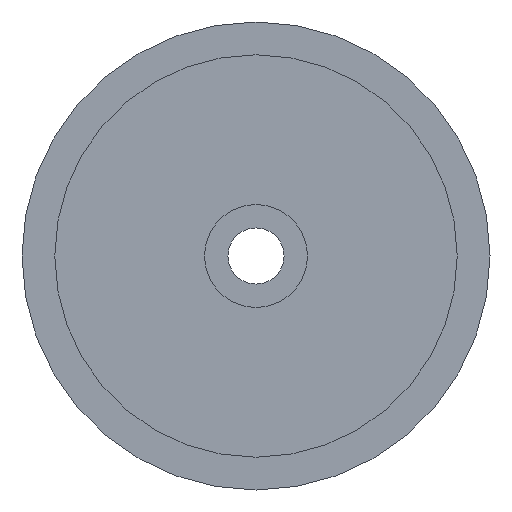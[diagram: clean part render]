
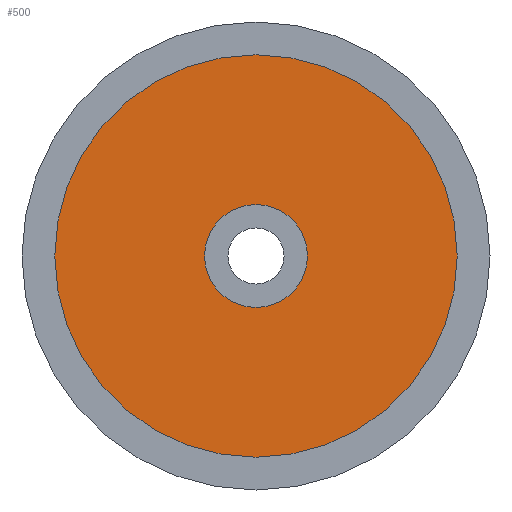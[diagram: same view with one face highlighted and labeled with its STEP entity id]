
A CAD part, front view. The second image highlights one B-rep face of the part: STEP entity #500.
In plain terms, the highlighted planar face has unit normal (0, -1, 0).
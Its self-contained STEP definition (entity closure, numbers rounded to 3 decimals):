
#341 = CYLINDRICAL_SURFACE('',#342,110.);
#342 = AXIS2_PLACEMENT_3D('',#343,#344,#345);
#343 = CARTESIAN_POINT('',(-600.,-577.2,500.));
#344 = DIRECTION('',(0.,1.,0.));
#345 = DIRECTION('',(0.,-0.,1.));
#414 = EDGE_CURVE('',#415,#415,#417,.T.);
#415 = VERTEX_POINT('',#416);
#416 = CARTESIAN_POINT('',(-600.,-519.7,610.));
#417 = SURFACE_CURVE('',#418,(#423,#430),.PCURVE_S1.);
#418 = CIRCLE('',#419,110.);
#419 = AXIS2_PLACEMENT_3D('',#420,#421,#422);
#420 = CARTESIAN_POINT('',(-600.,-519.7,500.));
#421 = DIRECTION('',(0.,1.,0.));
#422 = DIRECTION('',(0.,-0.,1.));
#423 = PCURVE('',#341,#424);
#424 = DEFINITIONAL_REPRESENTATION('',(#425),#429);
#425 = LINE('',#426,#427);
#426 = CARTESIAN_POINT('',(0.,57.5));
#427 = VECTOR('',#428,1.);
#428 = DIRECTION('',(1.,0.));
#429 = ( GEOMETRIC_REPRESENTATION_CONTEXT(2) 
PARAMETRIC_REPRESENTATION_CONTEXT() REPRESENTATION_CONTEXT('2D SPACE',''
  ) );
#430 = PCURVE('',#431,#436);
#431 = PLANE('',#432);
#432 = AXIS2_PLACEMENT_3D('',#433,#434,#435);
#433 = CARTESIAN_POINT('',(-600.,-519.7,500.));
#434 = DIRECTION('',(0.,1.,0.));
#435 = DIRECTION('',(0.,-0.,1.));
#436 = DEFINITIONAL_REPRESENTATION('',(#437),#441);
#437 = CIRCLE('',#438,110.);
#438 = AXIS2_PLACEMENT_2D('',#439,#440);
#439 = CARTESIAN_POINT('',(0.,0.));
#440 = DIRECTION('',(1.,0.));
#441 = ( GEOMETRIC_REPRESENTATION_CONTEXT(2) 
PARAMETRIC_REPRESENTATION_CONTEXT() REPRESENTATION_CONTEXT('2D SPACE',''
  ) );
#489 = CYLINDRICAL_SURFACE('',#490,430.);
#490 = AXIS2_PLACEMENT_3D('',#491,#492,#493);
#491 = CARTESIAN_POINT('',(-600.,-558.2,500.));
#492 = DIRECTION('',(0.,1.,0.));
#493 = DIRECTION('',(0.,-0.,1.));
#500 = ADVANCED_FACE('',(#501,#527),#431,.F.);
#501 = FACE_BOUND('',#502,.F.);
#502 = EDGE_LOOP('',(#503));
#503 = ORIENTED_EDGE('',*,*,#504,.T.);
#504 = EDGE_CURVE('',#505,#505,#507,.T.);
#505 = VERTEX_POINT('',#506);
#506 = CARTESIAN_POINT('',(-600.,-519.7,930.));
#507 = SURFACE_CURVE('',#508,(#513,#520),.PCURVE_S1.);
#508 = CIRCLE('',#509,430.);
#509 = AXIS2_PLACEMENT_3D('',#510,#511,#512);
#510 = CARTESIAN_POINT('',(-600.,-519.7,500.));
#511 = DIRECTION('',(0.,1.,0.));
#512 = DIRECTION('',(0.,-0.,1.));
#513 = PCURVE('',#431,#514);
#514 = DEFINITIONAL_REPRESENTATION('',(#515),#519);
#515 = CIRCLE('',#516,430.);
#516 = AXIS2_PLACEMENT_2D('',#517,#518);
#517 = CARTESIAN_POINT('',(0.,0.));
#518 = DIRECTION('',(1.,0.));
#519 = ( GEOMETRIC_REPRESENTATION_CONTEXT(2) 
PARAMETRIC_REPRESENTATION_CONTEXT() REPRESENTATION_CONTEXT('2D SPACE',''
  ) );
#520 = PCURVE('',#489,#521);
#521 = DEFINITIONAL_REPRESENTATION('',(#522),#526);
#522 = LINE('',#523,#524);
#523 = CARTESIAN_POINT('',(0.,38.5));
#524 = VECTOR('',#525,1.);
#525 = DIRECTION('',(1.,0.));
#526 = ( GEOMETRIC_REPRESENTATION_CONTEXT(2) 
PARAMETRIC_REPRESENTATION_CONTEXT() REPRESENTATION_CONTEXT('2D SPACE',''
  ) );
#527 = FACE_BOUND('',#528,.F.);
#528 = EDGE_LOOP('',(#529));
#529 = ORIENTED_EDGE('',*,*,#414,.F.);
